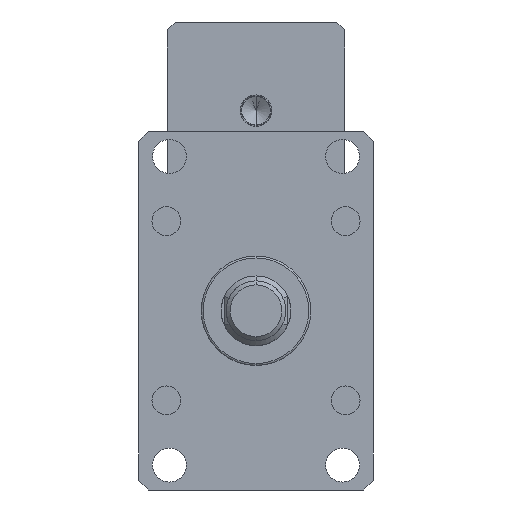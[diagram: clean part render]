
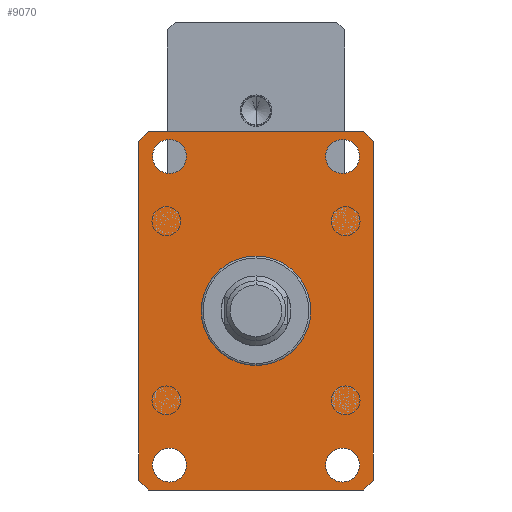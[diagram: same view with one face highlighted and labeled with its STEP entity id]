
A CAD part, front view. The second image highlights one B-rep face of the part: STEP entity #9070.
In plain terms, the highlighted planar face has unit normal (0, -1, 0).
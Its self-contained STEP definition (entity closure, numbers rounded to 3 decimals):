
#10 = CARTESIAN_POINT ( 'NONE',  ( -54., -55., 90. ) ) ;
#97 = ORIENTED_EDGE ( 'NONE', *, *, #1847, .T. ) ;
#134 = EDGE_LOOP ( 'NONE', ( #10042, #9587 ) ) ;
#178 = DIRECTION ( 'NONE',  ( 0., 1., 0. ) ) ;
#180 = DIRECTION ( 'NONE',  ( 0., 0., 1. ) ) ;
#294 = CARTESIAN_POINT ( 'NONE',  ( 54., -55., 90. ) ) ;
#334 = CARTESIAN_POINT ( 'NONE',  ( -43.5, -55., 77.5 ) ) ;
#340 = VERTEX_POINT ( 'NONE', #12582 ) ;
#421 = ORIENTED_EDGE ( 'NONE', *, *, #11731, .T. ) ;
#498 = EDGE_CURVE ( 'NONE', #340, #663, #8362, .T. ) ;
#542 = VERTEX_POINT ( 'NONE', #4026 ) ;
#586 = ORIENTED_EDGE ( 'NONE', *, *, #7173, .T. ) ;
#663 = VERTEX_POINT ( 'NONE', #11104 ) ;
#692 = VERTEX_POINT ( 'NONE', #8256 ) ;
#693 = DIRECTION ( 'NONE',  ( 0., -1., 0. ) ) ;
#758 = VECTOR ( 'NONE', #9821, 1000. ) ;
#799 = CARTESIAN_POINT ( 'NONE',  ( 43.5, -55., -86. ) ) ;
#814 = DIRECTION ( 'NONE',  ( -0.707, 0., -0.707 ) ) ;
#889 = CIRCLE ( 'NONE', #9603, 8.5 ) ;
#928 = EDGE_CURVE ( 'NONE', #8297, #692, #1056, .T. ) ;
#950 = DIRECTION ( 'NONE',  ( 0., 0., 1. ) ) ;
#999 = DIRECTION ( 'NONE',  ( 1., 0., 0. ) ) ;
#1056 = CIRCLE ( 'NONE', #5881, 8.5 ) ;
#1253 = CARTESIAN_POINT ( 'NONE',  ( 54., -55., 90. ) ) ;
#1361 = DIRECTION ( 'NONE',  ( 0., 0., -1. ) ) ;
#1368 = ORIENTED_EDGE ( 'NONE', *, *, #3131, .F. ) ;
#1550 = LINE ( 'NONE', #2187, #3944 ) ;
#1728 = CARTESIAN_POINT ( 'NONE',  ( -43.5, -55., -69. ) ) ;
#1770 = VERTEX_POINT ( 'NONE', #8560 ) ;
#1847 = EDGE_CURVE ( 'NONE', #5371, #340, #12324, .T. ) ;
#1893 = CARTESIAN_POINT ( 'NONE',  ( -43.5, -55., -77.5 ) ) ;
#2184 = FACE_BOUND ( 'NONE', #2533, .T. ) ;
#2187 = CARTESIAN_POINT ( 'NONE',  ( 59., -55., 85. ) ) ;
#2268 = EDGE_CURVE ( 'NONE', #11041, #11655, #10373, .T. ) ;
#2298 = VECTOR ( 'NONE', #999, 1000. ) ;
#2533 = EDGE_LOOP ( 'NONE', ( #1368, #4663 ) ) ;
#2612 = VECTOR ( 'NONE', #7540, 1000. ) ;
#2619 = CARTESIAN_POINT ( 'NONE',  ( 43.5, -55., 77.5 ) ) ;
#2742 = LINE ( 'NONE', #294, #7695 ) ;
#2915 = DIRECTION ( 'NONE',  ( 0., 0., 1. ) ) ;
#2917 = AXIS2_PLACEMENT_3D ( 'NONE', #2619, #9514, #3661 ) ;
#3085 = CARTESIAN_POINT ( 'NONE',  ( 54., -55., -90. ) ) ;
#3124 = PLANE ( 'NONE',  #3851 ) ;
#3131 = EDGE_CURVE ( 'NONE', #7501, #4478, #5441, .T. ) ;
#3146 = EDGE_CURVE ( 'NONE', #8620, #12261, #5128, .T. ) ;
#3228 = CARTESIAN_POINT ( 'NONE',  ( -54., -55., 90. ) ) ;
#3650 = EDGE_CURVE ( 'NONE', #4478, #7501, #8065, .T. ) ;
#3661 = DIRECTION ( 'NONE',  ( 0., 0., -1. ) ) ;
#3817 = EDGE_LOOP ( 'NONE', ( #5799, #6408 ) ) ;
#3851 = AXIS2_PLACEMENT_3D ( 'NONE', #5108, #11909, #6109 ) ;
#3944 = VECTOR ( 'NONE', #180, 1000. ) ;
#4002 = CARTESIAN_POINT ( 'NONE',  ( -54., -55., -90. ) ) ;
#4007 = CARTESIAN_POINT ( 'NONE',  ( -54., -55., -90. ) ) ;
#4026 = CARTESIAN_POINT ( 'NONE',  ( 54., -55., -90. ) ) ;
#4364 = LINE ( 'NONE', #10, #6661 ) ;
#4478 = VERTEX_POINT ( 'NONE', #7209 ) ;
#4537 = CARTESIAN_POINT ( 'NONE',  ( 43.5, -55., -77.5 ) ) ;
#4663 = ORIENTED_EDGE ( 'NONE', *, *, #3650, .F. ) ;
#4862 = FACE_BOUND ( 'NONE', #134, .T. ) ;
#4994 = ORIENTED_EDGE ( 'NONE', *, *, #9139, .T. ) ;
#5108 = CARTESIAN_POINT ( 'NONE',  ( 59., -55., -90. ) ) ;
#5128 = CIRCLE ( 'NONE', #12171, 8.5 ) ;
#5203 = EDGE_CURVE ( 'NONE', #12223, #5371, #4364, .T. ) ;
#5371 = VERTEX_POINT ( 'NONE', #3228 ) ;
#5381 = DIRECTION ( 'NONE',  ( 0., -1., 0. ) ) ;
#5441 = CIRCLE ( 'NONE', #10877, 8.5 ) ;
#5450 = CARTESIAN_POINT ( 'NONE',  ( 59., -55., 85. ) ) ;
#5527 = DIRECTION ( 'NONE',  ( 0., 0., 1. ) ) ;
#5799 = ORIENTED_EDGE ( 'NONE', *, *, #3146, .F. ) ;
#5881 = AXIS2_PLACEMENT_3D ( 'NONE', #1893, #8804, #2915 ) ;
#6071 = ORIENTED_EDGE ( 'NONE', *, *, #498, .T. ) ;
#6109 = DIRECTION ( 'NONE',  ( 0., 0., 1. ) ) ;
#6173 = CARTESIAN_POINT ( 'NONE',  ( 43.5, -55., -77.5 ) ) ;
#6243 = CARTESIAN_POINT ( 'NONE',  ( 43.5, -55., 86. ) ) ;
#6408 = ORIENTED_EDGE ( 'NONE', *, *, #9381, .F. ) ;
#6661 = VECTOR ( 'NONE', #7022, 1000. ) ;
#6670 = CARTESIAN_POINT ( 'NONE',  ( -43.5, -55., 77.5 ) ) ;
#6689 = ORIENTED_EDGE ( 'NONE', *, *, #10697, .T. ) ;
#6746 = VERTEX_POINT ( 'NONE', #5450 ) ;
#6901 = DIRECTION ( 'NONE',  ( 0., 1., 0. ) ) ;
#7022 = DIRECTION ( 'NONE',  ( -1., 0., 0. ) ) ;
#7095 = CIRCLE ( 'NONE', #8440, 8.5 ) ;
#7173 = EDGE_CURVE ( 'NONE', #6746, #12223, #2742, .T. ) ;
#7175 = DIRECTION ( 'NONE',  ( 0., 0., 1. ) ) ;
#7209 = CARTESIAN_POINT ( 'NONE',  ( -43.5, -55., 69. ) ) ;
#7320 = DIRECTION ( 'NONE',  ( 0., -1., 0. ) ) ;
#7501 = VERTEX_POINT ( 'NONE', #12652 ) ;
#7540 = DIRECTION ( 'NONE',  ( 0.707, 0., -0.707 ) ) ;
#7555 = VERTEX_POINT ( 'NONE', #4002 ) ;
#7575 = LINE ( 'NONE', #4007, #2298 ) ;
#7672 = DIRECTION ( 'NONE',  ( 0., 0., -1. ) ) ;
#7695 = VECTOR ( 'NONE', #8204, 1000. ) ;
#7780 = FACE_BOUND ( 'NONE', #10241, .T. ) ;
#8065 = CIRCLE ( 'NONE', #12705, 8.5 ) ;
#8204 = DIRECTION ( 'NONE',  ( -0.707, 0., 0.707 ) ) ;
#8256 = CARTESIAN_POINT ( 'NONE',  ( -43.5, -55., -86. ) ) ;
#8297 = VERTEX_POINT ( 'NONE', #1728 ) ;
#8362 = LINE ( 'NONE', #9320, #758 ) ;
#8440 = AXIS2_PLACEMENT_3D ( 'NONE', #12683, #6901, #950 ) ;
#8560 = CARTESIAN_POINT ( 'NONE',  ( 59., -55., -85. ) ) ;
#8620 = VERTEX_POINT ( 'NONE', #6243 ) ;
#8804 = DIRECTION ( 'NONE',  ( 0., 1., 0. ) ) ;
#8890 = CARTESIAN_POINT ( 'NONE',  ( 43.5, -55., -69. ) ) ;
#8960 = ORIENTED_EDGE ( 'NONE', *, *, #11076, .T. ) ;
#8973 = EDGE_LOOP ( 'NONE', ( #421, #8960, #4994, #586, #11987, #97, #6071, #6689 ) ) ;
#9070 = ADVANCED_FACE ( 'NONE', ( #2184, #7780, #4862, #12312, #9772 ), #3124, .F. ) ;
#9139 = EDGE_CURVE ( 'NONE', #1770, #6746, #1550, .T. ) ;
#9320 = CARTESIAN_POINT ( 'NONE',  ( -59., -55., 85. ) ) ;
#9381 = EDGE_CURVE ( 'NONE', #12261, #8620, #10054, .T. ) ;
#9514 = DIRECTION ( 'NONE',  ( 0., -1., 0. ) ) ;
#9587 = ORIENTED_EDGE ( 'NONE', *, *, #12127, .T. ) ;
#9603 = AXIS2_PLACEMENT_3D ( 'NONE', #4537, #11349, #5527 ) ;
#9772 = FACE_BOUND ( 'NONE', #3817, .T. ) ;
#9786 = VECTOR ( 'NONE', #814, 1000. ) ;
#9821 = DIRECTION ( 'NONE',  ( 0., 0., -1. ) ) ;
#9971 = DIRECTION ( 'NONE',  ( 0.707, 0., 0.707 ) ) ;
#10009 = VECTOR ( 'NONE', #9971, 1000. ) ;
#10042 = ORIENTED_EDGE ( 'NONE', *, *, #928, .T. ) ;
#10054 = CIRCLE ( 'NONE', #2917, 8.5 ) ;
#10241 = EDGE_LOOP ( 'NONE', ( #10786, #11690 ) ) ;
#10373 = CIRCLE ( 'NONE', #11183, 8.5 ) ;
#10438 = CARTESIAN_POINT ( 'NONE',  ( -59., -55., -85. ) ) ;
#10608 = EDGE_CURVE ( 'NONE', #11655, #11041, #889, .T. ) ;
#10656 = CARTESIAN_POINT ( 'NONE',  ( -59., -55., 85. ) ) ;
#10697 = EDGE_CURVE ( 'NONE', #663, #7555, #12686, .T. ) ;
#10786 = ORIENTED_EDGE ( 'NONE', *, *, #2268, .T. ) ;
#10877 = AXIS2_PLACEMENT_3D ( 'NONE', #334, #7320, #1361 ) ;
#11041 = VERTEX_POINT ( 'NONE', #8890 ) ;
#11076 = EDGE_CURVE ( 'NONE', #542, #1770, #12544, .T. ) ;
#11104 = CARTESIAN_POINT ( 'NONE',  ( -59., -55., -85. ) ) ;
#11183 = AXIS2_PLACEMENT_3D ( 'NONE', #6173, #178, #7175 ) ;
#11215 = CARTESIAN_POINT ( 'NONE',  ( 43.5, -55., 77.5 ) ) ;
#11349 = DIRECTION ( 'NONE',  ( 0., 1., 0. ) ) ;
#11655 = VERTEX_POINT ( 'NONE', #799 ) ;
#11690 = ORIENTED_EDGE ( 'NONE', *, *, #10608, .T. ) ;
#11731 = EDGE_CURVE ( 'NONE', #7555, #542, #7575, .T. ) ;
#11909 = DIRECTION ( 'NONE',  ( 0., 1., 0. ) ) ;
#11987 = ORIENTED_EDGE ( 'NONE', *, *, #5203, .T. ) ;
#12071 = CARTESIAN_POINT ( 'NONE',  ( 43.5, -55., 69. ) ) ;
#12127 = EDGE_CURVE ( 'NONE', #692, #8297, #7095, .T. ) ;
#12171 = AXIS2_PLACEMENT_3D ( 'NONE', #11215, #5381, #12194 ) ;
#12194 = DIRECTION ( 'NONE',  ( 0., 0., -1. ) ) ;
#12223 = VERTEX_POINT ( 'NONE', #1253 ) ;
#12261 = VERTEX_POINT ( 'NONE', #12071 ) ;
#12312 = FACE_OUTER_BOUND ( 'NONE', #8973, .T. ) ;
#12324 = LINE ( 'NONE', #10656, #9786 ) ;
#12544 = LINE ( 'NONE', #3085, #10009 ) ;
#12582 = CARTESIAN_POINT ( 'NONE',  ( -59., -55., 85. ) ) ;
#12652 = CARTESIAN_POINT ( 'NONE',  ( -43.5, -55., 86. ) ) ;
#12683 = CARTESIAN_POINT ( 'NONE',  ( -43.5, -55., -77.5 ) ) ;
#12686 = LINE ( 'NONE', #10438, #2612 ) ;
#12705 = AXIS2_PLACEMENT_3D ( 'NONE', #6670, #693, #7672 ) ;
